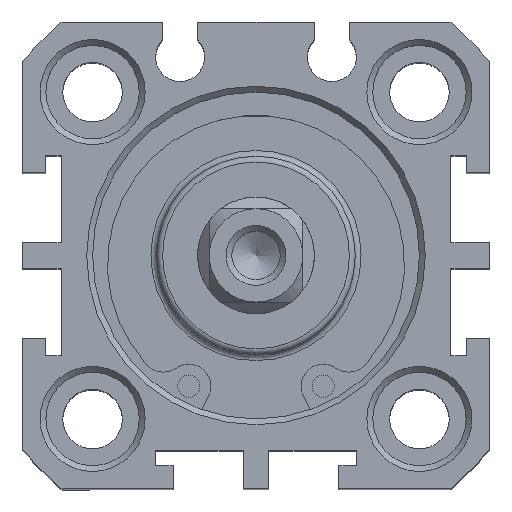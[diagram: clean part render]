
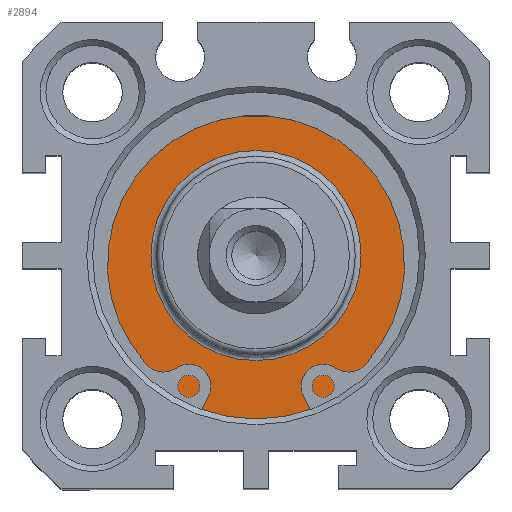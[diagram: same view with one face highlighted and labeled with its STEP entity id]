
A CAD part, top view. The second image highlights one B-rep face of the part: STEP entity #2894.
In plain terms, the highlighted planar face has unit normal (0, 0, 1).
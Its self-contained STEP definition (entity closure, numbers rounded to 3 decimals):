
#2843=CARTESIAN_POINT('',(-2.524,11.284,48.3));
#2844=VERTEX_POINT('',#2843);
#2845=CARTESIAN_POINT('',(-2.524,2.284,48.3));
#2846=DIRECTION('',(0.0,0.0,1.0));
#2847=DIRECTION('',(0.0,-1.0,0.0));
#2848=AXIS2_PLACEMENT_3D('',#2845,#2846,#2847);
#2849=CIRCLE('',#2848,9.0);
#2850=EDGE_CURVE('',#2844,#2844,#2849,.T.);
#2875=CARTESIAN_POINT('',(-2.524,13.534,48.3));
#2876=DIRECTION('',(0.0,0.0,1.0));
#2877=DIRECTION('',(1.0,0.0,0.0));
#2878=AXIS2_PLACEMENT_3D('',#2875,#2876,#2877);
#2879=PLANE('',#2878);
#2880=CARTESIAN_POINT('',(-2.524,16.284,48.3));
#2881=VERTEX_POINT('',#2880);
#2882=CARTESIAN_POINT('',(-2.524,2.284,48.3));
#2883=DIRECTION('',(0.0,0.0,-1.0));
#2884=DIRECTION('',(0.0,1.0,0.0));
#2885=AXIS2_PLACEMENT_3D('',#2882,#2883,#2884);
#2886=CIRCLE('',#2885,14.);
#2887=EDGE_CURVE('',#2881,#2881,#2886,.T.);
#2888=ORIENTED_EDGE('',*,*,#2887,.F.);
#2889=EDGE_LOOP('',(#2888));
#2890=FACE_OUTER_BOUND('',#2889,.T.);
#2891=ORIENTED_EDGE('',*,*,#2850,.F.);
#2892=EDGE_LOOP('',(#2891));
#2893=FACE_BOUND('',#2892,.T.);
#2894=ADVANCED_FACE('',(#2890,#2893),#2879,.T.);
